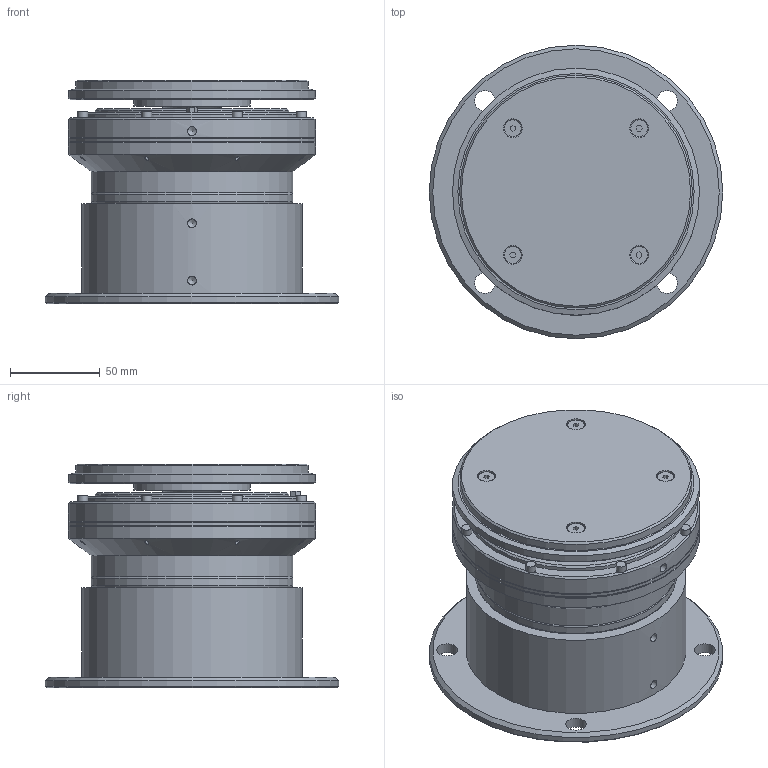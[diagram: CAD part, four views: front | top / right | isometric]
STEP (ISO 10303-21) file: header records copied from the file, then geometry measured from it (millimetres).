
FILE_DESCRIPTION(/* description */ (''),/* implementation_level */ '2;1');
FILE_NAME(/* name */ 'Z:\01-DesignData\標準品図面\★Web\X2\FF0F30AB30BF30ED30B0752830C730FC30BF\X0\(型式別 3点Set)\004-ILS 系\07-ILS-350S-H10_ILS-350S-S10_by_KOREA_for_step.stp',/* time_stamp */ '2019-08-24T14:04:37+09:00',/* author */ ('torikawa'),/* organization */ (''),/* preprocessor_version */ 'ST-DEVELOPER v16.5',/* originating_system */ 'Autodesk Inventor 2017',/* authorisation */ '');
FILE_SCHEMA (('CONFIG_CONTROL_DESIGN'));
Length unit declared in the file: millimetre
Products named in the file (1): 07-ILS-350S-H10_ILS-350S-S10_by_KOREA_for_step
Bounding box: 164 x 164 x 125 mm (x, y, z)
Volume: 1542167.6 mm3; surface area: 128218.6 mm2
Topology: 1 solids, 1 shells, 180 faces, 398 edges, 253 vertices
Faces by surface type: plane 108, cylinder 47, cone 23, torus 2
Full cylindrical faces by diameter (mm): 2.459 x8, 4.917 x3, 5.5 x8, 9.43 x8, 10.5 x4, 11.5 x4, 65 x1, 108 x1, 112.5 x2, 123 x1, 125 x1, 130 x1, 138 x4, 164 x1
Entity records: 4729 total; most frequent: CARTESIAN_POINT 1080, DIRECTION 772, ORIENTED_EDGE 600, AXIS2_PLACEMENT_3D 305, EDGE_CURVE 300, EDGE_LOOP 296, VERTEX_POINT 230, FACE_OUTER_BOUND 180
